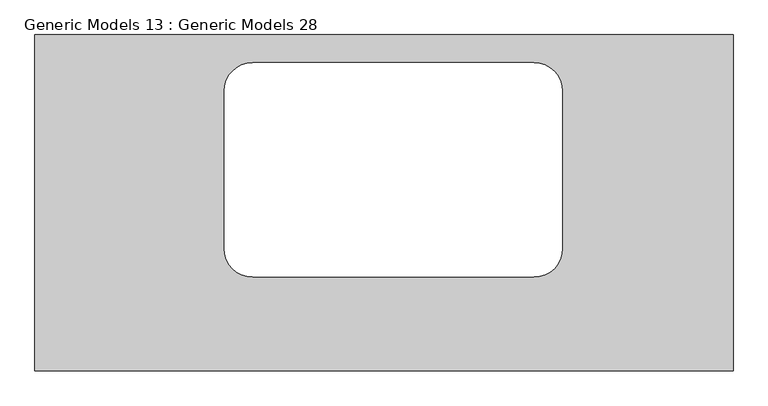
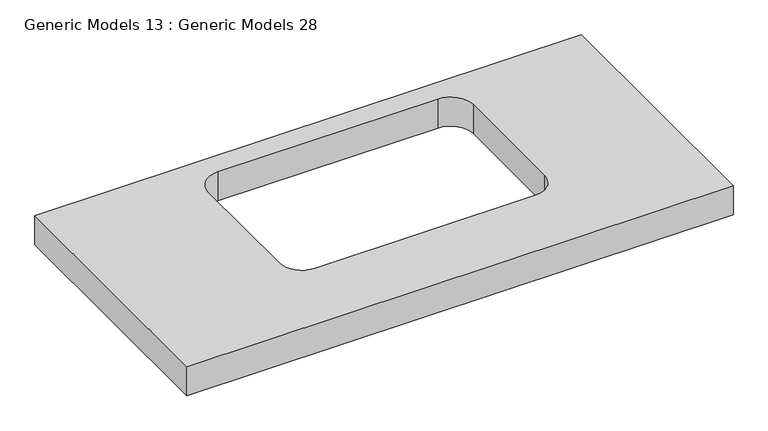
"""IFC4 building model written with IfcOpenShell, lengths in millimetres: proxy geometry, Generic Models 13 : Generic Models 28."""

from ifc_helpers import new_model, si_unit, point, frame, frame_2d, origin, place, context, project, spatial, polyline, circle_curve, trimmed, segment, composite_curve, outline, extrude, source, transform, mapped, element, save


def generic_models_13_generic_models_28_688059a1(model_context):
    return source(origin(), model_context, "Body", "SweptSolid", [
        extrude(outline(polyline([(-5282.2739616, -12514.5871375), (-5282.2739616, -11914.5871375), (-4037.2739616, -11914.5871375), (-4037.2739616, -12514.5871375), (-5282.2739616, -12514.5871375)]), holes=[composite_curve([segment(trimmed(circle_curve(frame_2d((-4893.9444474, -12296.1536913)), 50.8), [point((-4944.7444474, -12296.1536913))], [point((-4893.9444474, -12346.9536913))], True, "CARTESIAN"), True, "CONTINUOUS"), segment(polyline([(-4893.9444474, -12346.9536913), (-4392.4444474, -12346.9536913)]), True, "CONTINUOUS"), segment(trimmed(circle_curve(frame_2d((-4392.4444474, -12296.1536913)), 50.8), [point((-4392.4444474, -12346.9536913))], [point((-4341.6444474, -12296.1536913))], True, "CARTESIAN"), True, "CONTINUOUS"), segment(polyline([(-4341.6444474, -12296.1536913), (-4341.6444474, -12015.1536913)]), True, "CONTINUOUS"), segment(trimmed(circle_curve(frame_2d((-4392.4444474, -12015.1536913)), 50.8), [point((-4341.6444474, -12015.1536913))], [point((-4392.4444474, -11964.3536913))], True, "CARTESIAN"), True, "CONTINUOUS"), segment(polyline([(-4392.4444474, -11964.3536913), (-4893.9444474, -11964.3536913)]), True, "CONTINUOUS"), segment(trimmed(circle_curve(frame_2d((-4893.9444474, -12015.1536913)), 50.8), [point((-4893.9444474, -11964.3536913))], [point((-4944.7444474, -12015.1536913))], True, "CARTESIAN"), True, "CONTINUOUS"), segment(polyline([(-4944.7444474, -12015.1536913), (-4944.7444474, -12296.1536913)]), True, "CONTINUOUS")], self_intersect=False)]), frame((0.0, 0.0, 830.0), z_axis=(0.0, 0.0, 1.0), x_axis=(1.0, 0.0, 0.0)), (0.0, 0.0, 1.0), 70.0),
    ])


if __name__ == "__main__":
    model = new_model("IFC4")
    model_context = context("Model", 3, world=origin())
    ifc_project = project(units=[si_unit("LENGTHUNIT", "METRE", prefix="MILLI")], contexts=[model_context])
    site = spatial("IfcSite", under=ifc_project)
    building = spatial("IfcBuilding", under=site)
    placement = place(None, origin())
    generic_models_13_generic_models_28_shape = generic_models_13_generic_models_28_688059a1(model_context)
    element("IfcBuildingElementProxy", 1, Name="Generic Models 13 : Generic Models 28", ObjectType="Generic Models 13 : Generic Models 28", at=placement, inside=building, context=model_context, shape_type="MappedRepresentation", body=[
        mapped(generic_models_13_generic_models_28_shape, transform((0.0, 0.0, 0.0), x_axis=(1.0, 0.0, 0.0), y_axis=(0.0, 1.0, 0.0), z_axis=(0.0, 0.0, 1.0))),
    ])
    save(model, "model.ifc")
